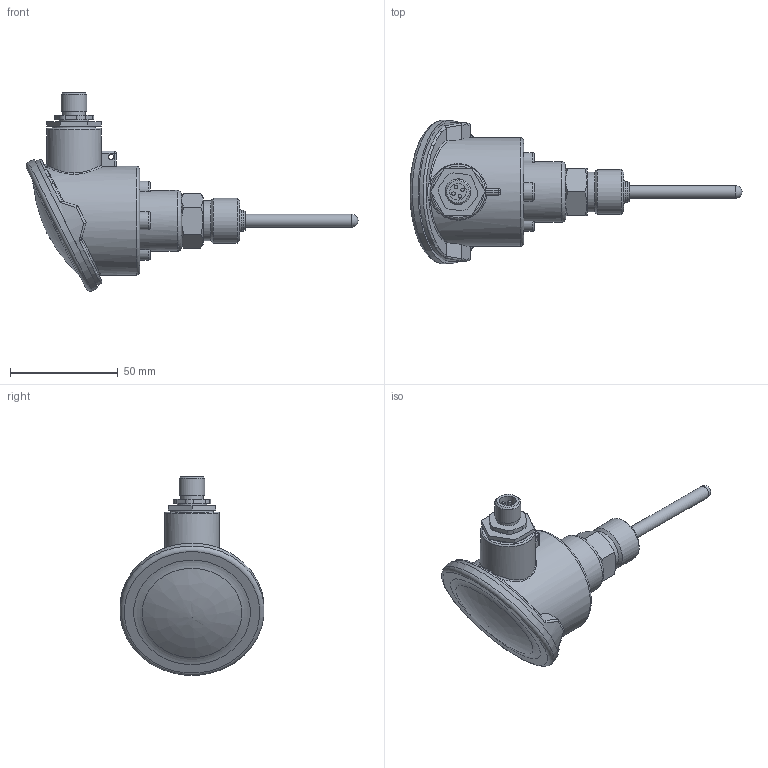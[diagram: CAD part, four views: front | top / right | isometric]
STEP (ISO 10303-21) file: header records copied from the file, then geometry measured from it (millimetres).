
FILE_DESCRIPTION(/* description */ ('Unknown'),/* implementation_level */ '2;1');
FILE_NAME(/* name */ 'TCR6-1720.600A.1012.0514.0072',/* time_stamp */ '2019-12-10T14:54:00+01:00',/* author */ ('Unknown'),/* organization */ ('Unknown'),/* preprocessor_version */ 'ST-DEVELOPER v16.7',/* originating_system */ 'DEX',/* authorisation */ $);
FILE_SCHEMA (('AUTOMOTIVE_DESIGN {1 0 10303 214 3 1 1}'));
Length unit declared in the file: millimetre
Products named in the file (1): Part3
Bounding box: 154.29 x 66.75 x 92.28 mm (x, y, z)
Volume: 59732.9 mm3; surface area: 37654.3 mm2
Topology: 2 solids, 2 shells, 176 faces, 418 edges, 273 vertices
Faces by surface type: plane 73, cylinder 49, bspline 18, torus 16, cone 15, sphere 5
Full cylindrical faces by diameter (mm): 1.64 x4, 2.5 x1, 4 x1, 6 x2, 7.709 x1, 8 x1, 8.1 x1, 9 x1, 9.6 x1, 10.5 x1, 11.2 x1, 11.741 x1, 12 x1, 13.1 x1, 13.157 x1, 13.8 x1, 14.376 x2, 15.5 x1, 18.5 x1, 20 x1, 20.955 x1, 21 x1, 25.5 x1, 28.2 x1, 47 x1, 50 x1, 50.5 x1, 64.5 x1, 67 x1
Entity records: 7228 total; most frequent: CARTESIAN_POINT 2469, DIRECTION 710, ORIENTED_EDGE 642, EDGE_CURVE 321, AXIS2_PLACEMENT_3D 315, FACE_BOUND 269, EDGE_LOOP 266, VERTEX_POINT 240
